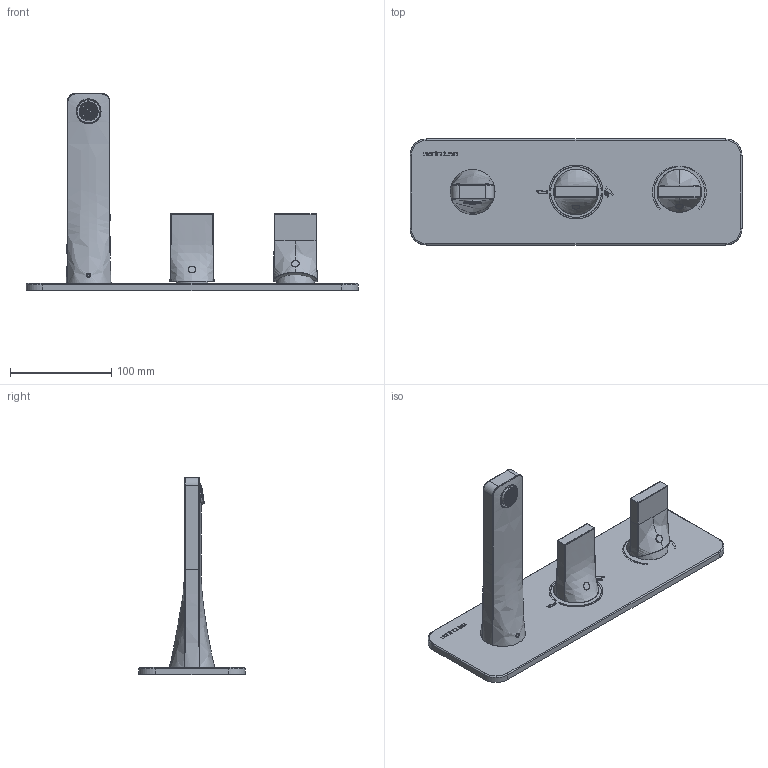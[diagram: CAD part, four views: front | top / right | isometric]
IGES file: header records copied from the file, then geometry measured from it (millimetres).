
Start section: SolidWorks IGES file using NURBS representation for surfaces
Global section: file name: \\192.168.4.1\Projectos\01-TORNEIRAS\LINE 42\5557801 - Mist. encast. banh. c saida livre\biblioteca 3D\5557801_igs.IGS; native system: SolidWorks 2018; preprocessor: SolidWorks 2018; author: Julio; date: 181015.160902; units: millimetre
Bounding box: 327.6 x 104.6 x 194.5 mm (x, y, z)
Surface area: 110820.6 mm2 (no closed solid volume)
Topology: 0 solids, 0 shells, 850 faces, 9305 edges, 9297 vertices
Faces by surface type: bspline 850
